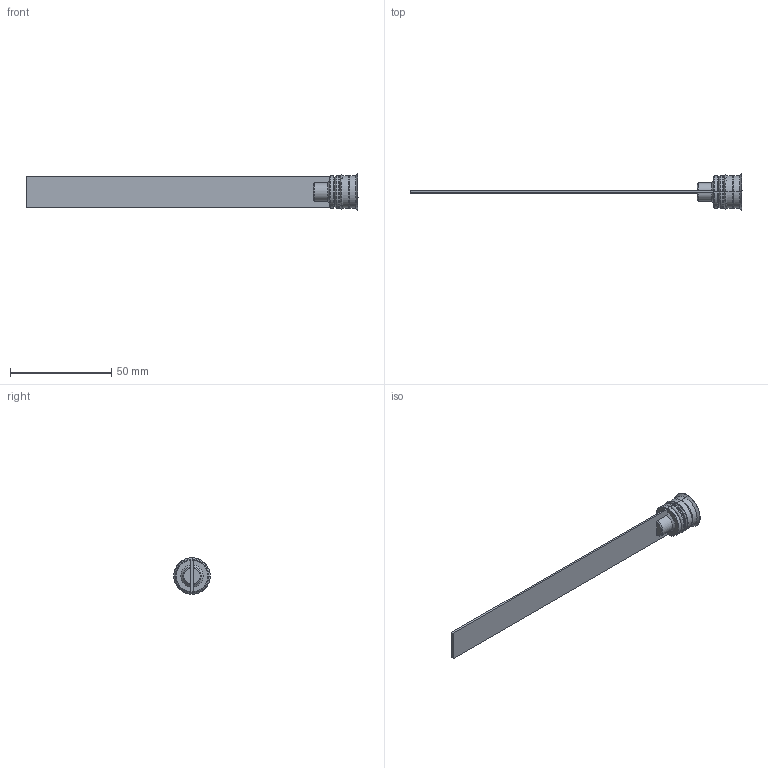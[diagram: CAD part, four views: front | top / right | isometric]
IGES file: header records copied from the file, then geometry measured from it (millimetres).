
Start section: START RECORD GO HERE.
Global section: file name: RL-16Fx150P (lama 15.5mm).igs; native system: DASSAULT SYSTEMES CATIA V5 R20 - www.3ds.com; preprocessor: CATIA Version 5 Release 20 ; author: Utente; organization: NB04-ASUS; date: 20210303.200617; units: millimetre
Bounding box: 164 x 18 x 18 mm (x, y, z)
Surface area: 6772.7 mm2 (no closed solid volume)
Topology: 0 solids, 0 shells, 74 faces, 416 edges, 416 vertices
Faces by surface type: revolution 46, plane 28
